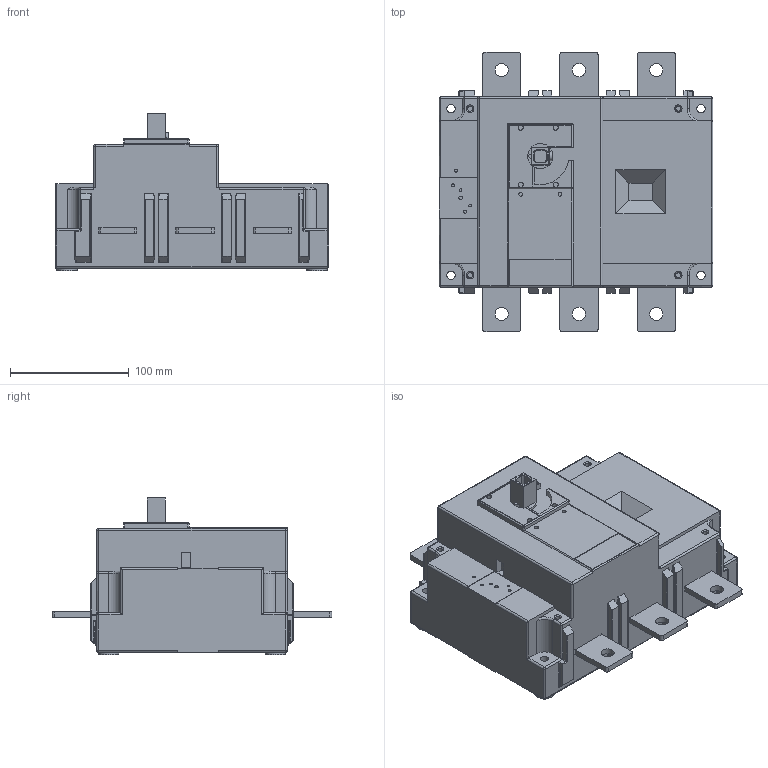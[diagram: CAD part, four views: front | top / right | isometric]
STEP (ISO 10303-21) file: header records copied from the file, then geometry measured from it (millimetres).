
FILE_DESCRIPTION(/* description */ (''),/* implementation_level */ '2;1');
FILE_NAME(/* name */ '2600__3032_3041',/* time_stamp */ '2006-09-05T13:59:23+02:00',/* author */ (''),/* organization */ (''),/* preprocessor_version */ 'ST-DEVELOPER v9',/* originating_system */ 'EDS PLM SOLUTIONS - UNIGRAPHICS NX 2.0',/* authorisation */ '');
FILE_SCHEMA (('CONFIG_CONTROL_DESIGN','SHAPE_APPEARANCE_LAYER_MIM'));
Length unit declared in the file: millimetre
Products named in the file (1): lao88FAt723
Bounding box: 230 x 235 x 132.2 mm (x, y, z)
Volume: 3156224 mm3; surface area: 274107.4 mm2
Topology: 3 solids, 3 shells, 585 faces, 1544 edges, 967 vertices
Faces by surface type: plane 332, cylinder 209, sphere 24, cone 12, torus 8
Full cylindrical faces by diameter (mm): 2.1 x2, 2.5 x3, 3 x1, 3.2 x2, 4.2 x1, 4.25 x4, 4.3 x4, 7 x4, 7.95 x4, 11 x6, 17 x4, 21.15 x2, 21.25 x1
Entity records: 17662 total; most frequent: CARTESIAN_POINT 3140, DIRECTION 3073, ORIENTED_EDGE 2912, EDGE_CURVE 1456, AXIS2_PLACEMENT_3D 1053, LINE 967, VECTOR 967, VERTEX_POINT 945
